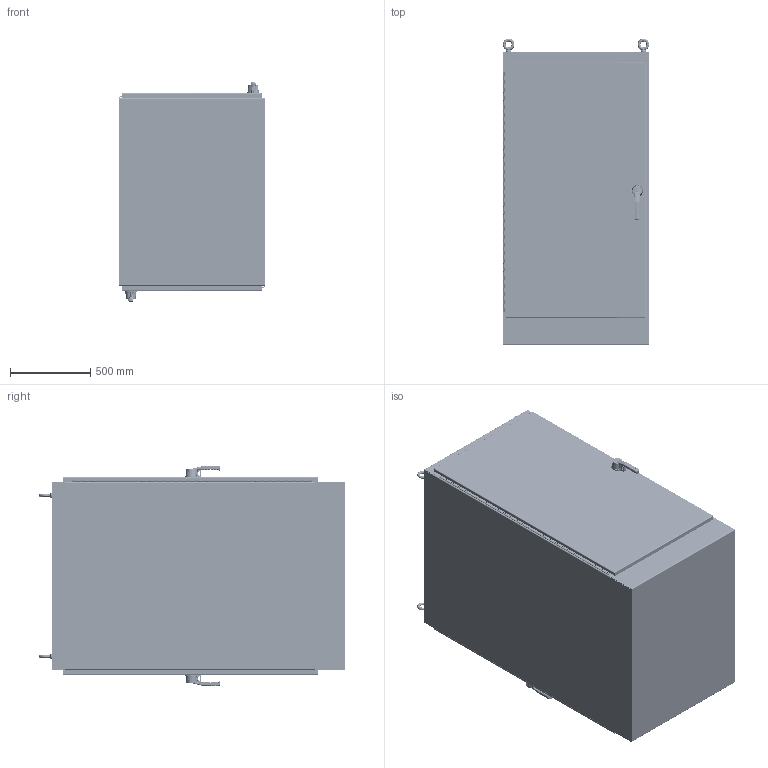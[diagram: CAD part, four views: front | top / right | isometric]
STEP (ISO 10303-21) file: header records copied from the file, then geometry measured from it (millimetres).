
FILE_DESCRIPTION (( 'STEP AP203' ), '1' );
FILE_NAME ('d723646sda.STEP', '2020-01-22T22:20:16', ( '' ), ( '' ), 'SwSTEP 2.0', 'SolidWorks 2016', '' );
FILE_SCHEMA (( 'CONFIG_CONTROL_DESIGN' ));
Length unit declared in the file: inch
Products named in the file (63): 26118002_26118002; 89153548; d723646sda; 89089727_DOOR CLOSED; 27439102_Closed; 89177293; 89106811; 87932883; 89153546; 89075576; 99411910_Config-Drawing; 27438002; 27439002_27439002; 89153549_571TR002; 89153543; 89089720; 89153545; 27151001; 23418001; 27150001; 89152566; 89089713; 89153327; 89153550; 89152562; 22101014; 89152569; 89085500; 99404177_Config-Drawing; 89142287; 26273015_26273015; 24110001; 89106810; 89152560; 27115001; 27155001; 89153328; 22318001; 27156001; 35124002_35124002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
Assembly tree (105 placements, depth 5):
  d723646sda
    89153543
      89152560
        89152563
        99404177_Config-Drawing  x2
      89153544  x2
        89153545
        89152565_10237006
        11158117_11158113
      89152562
        89152566
        11258877_11258877
      89085500  x4
      87932883  x4
      99415273_Hex Nut  x4
      26108002  x4
    89089727_DOOR CLOSED  x2
      89089720
        89089713
        99404177_Config-Drawing
        99411910_Config-Drawing  x2
        24110001  x2
        89142484_Left Door Half Shear
      35261001
      22318001
      23418001
      89121292
        89106810
        89106811
        99411273_99411273
      27439102_Closed
        27438002
        27439002_27439002
          89075576
          27150001
        27156001
        27151001
        27155001
      35124002_35124002
      26274015_26274015
        26273015_26273015
        30101003  x2
        27115001
        22318002
      26118002_26118002
      89177293
      99401300_99401300
      35130001_SI-HHMS 0.25-28x0.375x0.375-N
      22101014
      35131001_35131001
    89153546
      89153547_571TR001
      89152569  x2
    89153548
      89153549_571TR002
      89152569  x2
    89153321  x2
      89153327
      89153162
    89153328  x2
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Bounding box: 915.97 x 1911.15 x 1369.4 mm (x, y, z)
Volume: 36380436 mm3; surface area: 28193154.9 mm2
Topology: 146 solids, 146 shells, 18614 faces, 48396 edges, 30422 vertices
Faces by surface type: plane 8226, bspline 4610, cylinder 3746, cone 962, torus 858, sphere 212
Entity records: 713432 total; most frequent: CARTESIAN_POINT 410153, ORIENTED_EDGE 67626, DIRECTION 50796, EDGE_CURVE 33813, VERTEX_POINT 21418, LINE 19196, VECTOR 19196, AXIS2_PLACEMENT_3D 15800
